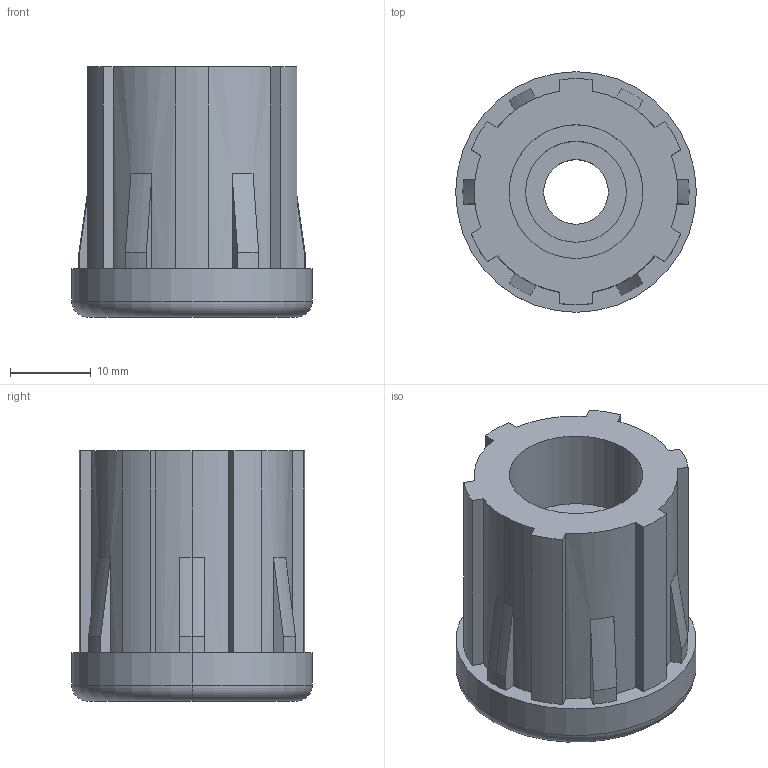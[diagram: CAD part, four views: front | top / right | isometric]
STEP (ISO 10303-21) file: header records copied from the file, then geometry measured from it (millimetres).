
FILE_DESCRIPTION(('STEP AP214'),'1');
FILE_NAME('42006430108.stp','2016-01-21T10:50:12',(' '),(' '),'Spatial InterOp 3D',' ',' ');
FILE_SCHEMA(('automotive_design'));
Length unit declared in the file: millimetre
Products named in the file (4): 42006430108; Disegno1; 64_80857; Component1
Assembly tree (3 placements, depth 3):
  42006430108
    Disegno1
    64_80857
      Component1
Bounding box: 29.8 x 29.8 x 31 mm (x, y, z)
Volume: 13477.2 mm3; surface area: 6612 mm2
Topology: 2 solids, 2 shells, 85 faces, 218 edges, 140 vertices
Faces by surface type: cylinder 36, plane 31, cone 14, torus 4
Entity records: 3387 total; most frequent: DIRECTION 482, CARTESIAN_POINT 472, ORIENTED_EDGE 436, EDGE_CURVE 218, AXIS2_PLACEMENT_3D 186, VERTEX_POINT 140, LINE 110, VECTOR 110
